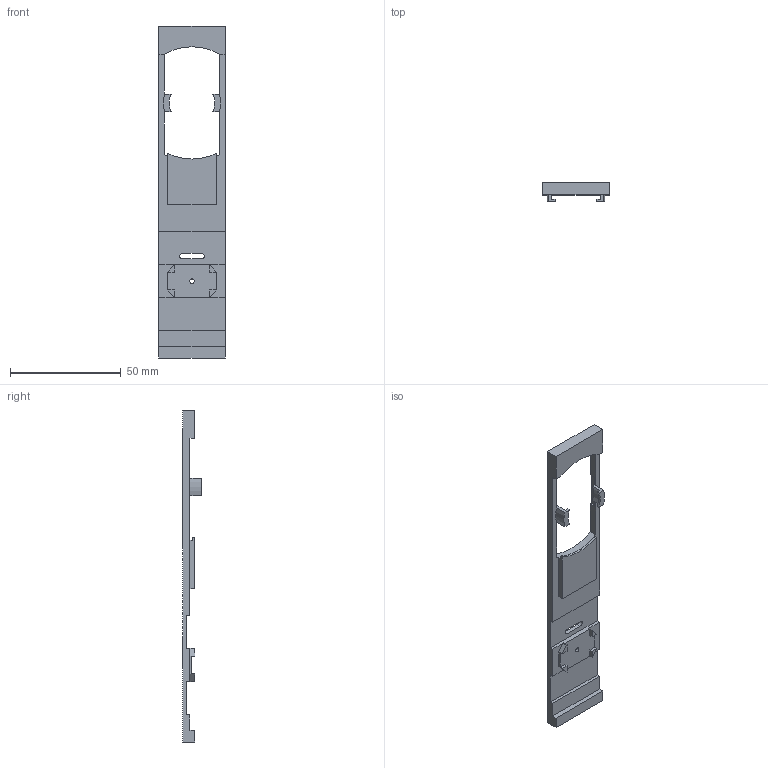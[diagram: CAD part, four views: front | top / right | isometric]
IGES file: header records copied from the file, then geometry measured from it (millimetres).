
Start section:  PTC IGES file: dv12runko.igs
Global section: file name: dv12runko.igs; native system: Pro/ENGINEER by Parametric Technology Corporation; preprocessor: 2004360; author: juha.telimaa; organization: Unknown; date: 060214.163020; units: millimetre
Bounding box: 30 x 8.5 x 150 mm (x, y, z)
Volume: 11682.8 mm3; surface area: 9293.8 mm2
Topology: 1 solids, 1 shells, 77 faces, 218 edges, 142 vertices
Faces by surface type: bspline 63, revolution 14
